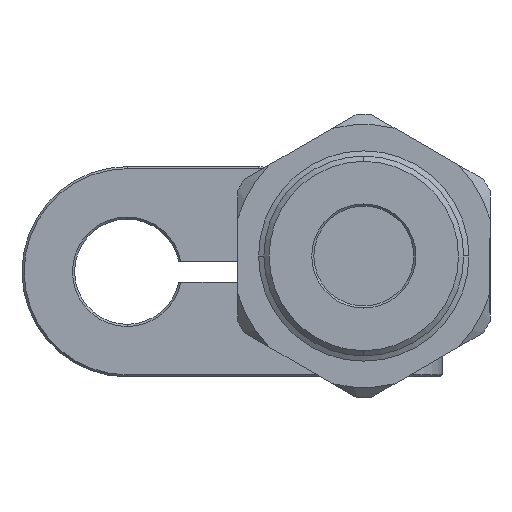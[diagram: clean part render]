
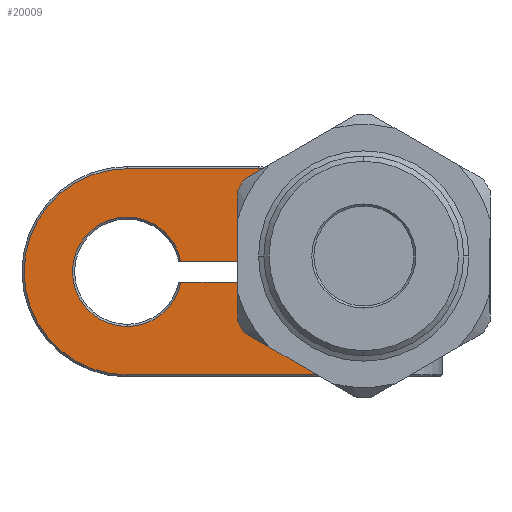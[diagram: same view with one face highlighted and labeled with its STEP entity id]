
A CAD part, front view. The second image highlights one B-rep face of the part: STEP entity #20009.
In plain terms, the highlighted planar face has unit normal (0, -1, 0).
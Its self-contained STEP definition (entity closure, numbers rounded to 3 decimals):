
#261 = CARTESIAN_POINT ( 'NONE',  ( -11.42, -19.732, 24.219 ) ) ;
#398 = CARTESIAN_POINT ( 'NONE',  ( -8.42, -19.732, 13.419 ) ) ;
#745 = DIRECTION ( 'NONE',  ( 0., 0., -1. ) ) ;
#1176 = ORIENTED_EDGE ( 'NONE', *, *, #7160, .T. ) ;
#1280 = CARTESIAN_POINT ( 'NONE',  ( -23.92, -19.732, 14.419 ) ) ;
#1343 = DIRECTION ( 'NONE',  ( 0., 0., -1. ) ) ;
#1632 = CARTESIAN_POINT ( 'NONE',  ( -1.42, -19.732, 4.619 ) ) ;
#1645 = ORIENTED_EDGE ( 'NONE', *, *, #7142, .T. ) ;
#1649 = DIRECTION ( 'NONE',  ( 0., 0., -1. ) ) ;
#1746 = ORIENTED_EDGE ( 'NONE', *, *, #23572, .T. ) ;
#1792 = LINE ( 'NONE', #28736, #19117 ) ;
#1867 = CARTESIAN_POINT ( 'NONE',  ( -23.92, -19.732, 24.219 ) ) ;
#1906 = CARTESIAN_POINT ( 'NONE',  ( -9.62, -19.732, 13.419 ) ) ;
#2507 = VERTEX_POINT ( 'NONE', #16524 ) ;
#2672 = DIRECTION ( 'NONE',  ( 0., 0., -1. ) ) ;
#2799 = EDGE_CURVE ( 'NONE', #26790, #27346, #10441, .T. ) ;
#3091 = DIRECTION ( 'NONE',  ( 0., 0., 1. ) ) ;
#3183 = CIRCLE ( 'NONE', #18465, 1.2 ) ;
#3272 = EDGE_CURVE ( 'NONE', #23671, #23467, #20671, .T. ) ;
#3548 = DIRECTION ( 'NONE',  ( 0., 0., -1. ) ) ;
#3961 = ORIENTED_EDGE ( 'NONE', *, *, #16729, .T. ) ;
#4176 = VECTOR ( 'NONE', #12551, 1000. ) ;
#4299 = EDGE_CURVE ( 'NONE', #9458, #2507, #12693, .T. ) ;
#4730 = DIRECTION ( 'NONE',  ( -1., 0., 0. ) ) ;
#4917 = CIRCLE ( 'NONE', #14696, 5.2 ) ;
#4969 = ORIENTED_EDGE ( 'NONE', *, *, #3272, .T. ) ;
#5232 = VERTEX_POINT ( 'NONE', #23546 ) ;
#5233 = CARTESIAN_POINT ( 'NONE',  ( -13.92, -19.732, 15.419 ) ) ;
#5523 = CARTESIAN_POINT ( 'NONE',  ( -18.817, -19.732, 13.419 ) ) ;
#5812 = CARTESIAN_POINT ( 'NONE',  ( -23.92, -19.732, 14.419 ) ) ;
#6238 = LINE ( 'NONE', #12098, #24258 ) ;
#7142 = EDGE_CURVE ( 'NONE', #23467, #15960, #4917, .T. ) ;
#7160 = EDGE_CURVE ( 'NONE', #27346, #11617, #10215, .T. ) ;
#7199 = ORIENTED_EDGE ( 'NONE', *, *, #11226, .T. ) ;
#7251 = CIRCLE ( 'NONE', #27458, 1.8 ) ;
#8054 = CARTESIAN_POINT ( 'NONE',  ( -1.42, -19.732, 4.619 ) ) ;
#8114 = DIRECTION ( 'NONE',  ( 0., 0., -1. ) ) ;
#9458 = VERTEX_POINT ( 'NONE', #18330 ) ;
#9480 = VECTOR ( 'NONE', #23817, 1000. ) ;
#10215 = LINE ( 'NONE', #28306, #4176 ) ;
#10441 = LINE ( 'NONE', #5233, #21723 ) ;
#10694 = VERTEX_POINT ( 'NONE', #21290 ) ;
#10918 = CARTESIAN_POINT ( 'NONE',  ( -23.92, -19.732, 14.419 ) ) ;
#10940 = AXIS2_PLACEMENT_3D ( 'NONE', #28679, #15195, #1649 ) ;
#11004 = AXIS2_PLACEMENT_3D ( 'NONE', #28382, #14897, #1343 ) ;
#11011 = ORIENTED_EDGE ( 'NONE', *, *, #20097, .T. ) ;
#11226 = EDGE_CURVE ( 'NONE', #15960, #23146, #13798, .T. ) ;
#11496 = CARTESIAN_POINT ( 'NONE',  ( -18.817, -19.732, 15.419 ) ) ;
#11617 = VERTEX_POINT ( 'NONE', #19690 ) ;
#12098 = CARTESIAN_POINT ( 'NONE',  ( -1.42, -19.732, 14.419 ) ) ;
#12551 = DIRECTION ( 'NONE',  ( 0., 0., 1. ) ) ;
#12693 = CIRCLE ( 'NONE', #24601, 9.8 ) ;
#12697 = LINE ( 'NONE', #1867, #24674 ) ;
#12842 = PLANE ( 'NONE',  #10940 ) ;
#12965 = CARTESIAN_POINT ( 'NONE',  ( -23.92, -19.732, 19.619 ) ) ;
#13203 = DIRECTION ( 'NONE',  ( 0., 0., -1. ) ) ;
#13798 = CIRCLE ( 'NONE', #11004, 5.2 ) ;
#14015 = CIRCLE ( 'NONE', #26094, 5.2 ) ;
#14249 = DIRECTION ( 'NONE',  ( 1., 0., 0. ) ) ;
#14287 = DIRECTION ( 'NONE',  ( 0., -1., 0. ) ) ;
#14593 = VERTEX_POINT ( 'NONE', #1632 ) ;
#14684 = VECTOR ( 'NONE', #4730, 1000. ) ;
#14696 = AXIS2_PLACEMENT_3D ( 'NONE', #1280, #17062, #3548 ) ;
#14897 = DIRECTION ( 'NONE',  ( 0., 1., 0. ) ) ;
#14938 = EDGE_LOOP ( 'NONE', ( #4969, #1645, #7199, #11011, #20101, #1176, #16089, #26568, #22792, #16542, #3961, #1746, #15662 ) ) ;
#15081 = FACE_OUTER_BOUND ( 'NONE', #14938, .T. ) ;
#15195 = DIRECTION ( 'NONE',  ( 0., -1., 0. ) ) ;
#15259 = DIRECTION ( 'NONE',  ( -1., 0., 0. ) ) ;
#15457 = LINE ( 'NONE', #8054, #9480 ) ;
#15662 = ORIENTED_EDGE ( 'NONE', *, *, #27947, .T. ) ;
#15960 = VERTEX_POINT ( 'NONE', #22936 ) ;
#16089 = ORIENTED_EDGE ( 'NONE', *, *, #17339, .T. ) ;
#16196 = DIRECTION ( 'NONE',  ( 0., 1., 0. ) ) ;
#16204 = EDGE_CURVE ( 'NONE', #2507, #14593, #15457, .T. ) ;
#16524 = CARTESIAN_POINT ( 'NONE',  ( -23.92, -19.732, 4.619 ) ) ;
#16542 = ORIENTED_EDGE ( 'NONE', *, *, #16204, .T. ) ;
#16729 = EDGE_CURVE ( 'NONE', #14593, #5232, #6238, .T. ) ;
#17062 = DIRECTION ( 'NONE',  ( 0., 1., 0. ) ) ;
#17339 = EDGE_CURVE ( 'NONE', #11617, #20280, #7251, .T. ) ;
#18330 = CARTESIAN_POINT ( 'NONE',  ( -23.92, -19.732, 24.219 ) ) ;
#18465 = AXIS2_PLACEMENT_3D ( 'NONE', #398, #16196, #2672 ) ;
#19117 = VECTOR ( 'NONE', #15259, 1000. ) ;
#19690 = CARTESIAN_POINT ( 'NONE',  ( -9.62, -19.732, 22.419 ) ) ;
#20009 = ADVANCED_FACE ( 'NONE', ( #15081 ), #12842, .T. ) ;
#20097 = EDGE_CURVE ( 'NONE', #23146, #26790, #14015, .T. ) ;
#20101 = ORIENTED_EDGE ( 'NONE', *, *, #2799, .T. ) ;
#20280 = VERTEX_POINT ( 'NONE', #261 ) ;
#20671 = LINE ( 'NONE', #27433, #14684 ) ;
#21290 = CARTESIAN_POINT ( 'NONE',  ( -8.42, -19.732, 12.219 ) ) ;
#21595 = DIRECTION ( 'NONE',  ( 0., -1., 0. ) ) ;
#21723 = VECTOR ( 'NONE', #14249, 1000. ) ;
#22792 = ORIENTED_EDGE ( 'NONE', *, *, #4299, .T. ) ;
#22936 = CARTESIAN_POINT ( 'NONE',  ( -23.92, -19.732, 9.219 ) ) ;
#23146 = VERTEX_POINT ( 'NONE', #12965 ) ;
#23467 = VERTEX_POINT ( 'NONE', #5523 ) ;
#23546 = CARTESIAN_POINT ( 'NONE',  ( -1.42, -19.732, 12.219 ) ) ;
#23572 = EDGE_CURVE ( 'NONE', #5232, #10694, #1792, .T. ) ;
#23671 = VERTEX_POINT ( 'NONE', #1906 ) ;
#23817 = DIRECTION ( 'NONE',  ( 1., 0., 0. ) ) ;
#24258 = VECTOR ( 'NONE', #3091, 1000. ) ;
#24601 = AXIS2_PLACEMENT_3D ( 'NONE', #5812, #21595, #8114 ) ;
#24674 = VECTOR ( 'NONE', #26632, 1000. ) ;
#25539 = CARTESIAN_POINT ( 'NONE',  ( -9.62, -19.732, 15.419 ) ) ;
#26094 = AXIS2_PLACEMENT_3D ( 'NONE', #10918, #26702, #13203 ) ;
#26568 = ORIENTED_EDGE ( 'NONE', *, *, #27765, .T. ) ;
#26632 = DIRECTION ( 'NONE',  ( -1., 0., 0. ) ) ;
#26702 = DIRECTION ( 'NONE',  ( 0., 1., 0. ) ) ;
#26790 = VERTEX_POINT ( 'NONE', #11496 ) ;
#27346 = VERTEX_POINT ( 'NONE', #25539 ) ;
#27433 = CARTESIAN_POINT ( 'NONE',  ( -13.92, -19.732, 13.419 ) ) ;
#27458 = AXIS2_PLACEMENT_3D ( 'NONE', #27777, #14287, #745 ) ;
#27765 = EDGE_CURVE ( 'NONE', #20280, #9458, #12697, .T. ) ;
#27777 = CARTESIAN_POINT ( 'NONE',  ( -11.42, -19.732, 22.419 ) ) ;
#27947 = EDGE_CURVE ( 'NONE', #10694, #23671, #3183, .T. ) ;
#28306 = CARTESIAN_POINT ( 'NONE',  ( -9.62, -19.732, 22.419 ) ) ;
#28382 = CARTESIAN_POINT ( 'NONE',  ( -23.92, -19.732, 14.419 ) ) ;
#28679 = CARTESIAN_POINT ( 'NONE',  ( -13.92, -19.732, 14.419 ) ) ;
#28736 = CARTESIAN_POINT ( 'NONE',  ( -8.42, -19.732, 12.219 ) ) ;
